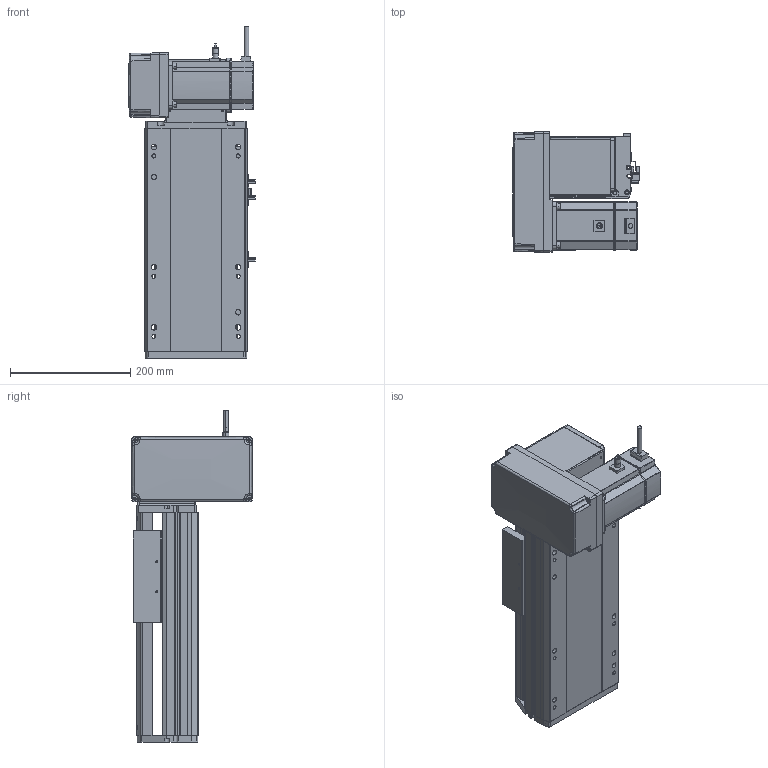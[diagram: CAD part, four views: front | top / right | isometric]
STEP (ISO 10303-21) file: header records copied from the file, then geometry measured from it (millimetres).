
FILE_DESCRIPTION (( 'STEP AP214' ), '1' );
FILE_NAME ('RTB17S-XX-100-LM-M75-C4.STEP', '2025-12-12T00:33:01', ( '' ), ( '' ), 'SwSTEP 2.0', 'SolidWorks 2018', '' );
FILE_SCHEMA (( 'AUTOMOTIVE_DESIGN' ));
Length unit declared in the file: millimetre
Products named in the file (15): RTH13-BL-012覜茼え俋离^RTB17S-賑釱_RTB17S-XX-XX-LM-M75-C4; RTB17S-賑釱^RTB17S-XX-XX-LM-M75-C4; EE672^RTB17S-XX-XX-LM-M75-C4; RTB22S-GY-017P^RTB17S-LM-々湍釱蚾饜-750W_RTB17S-XX-XX-LM-M75-C4; RTB17S-XX-100-LM-M75-C4; RTB17S-L-014-T20-P75--々湍釱^RTB17S-LM-々湍釱蚾饜-750W_RTB17S-XX-XX-LM-M75-C4; 750W萇儂^RTB17S-XX-XX-LM-M75-C4; RTB17S-L-001-耜醱啣^RTB17S-XX-XX-LM-M75-C4; RTB17S-L-004-賑釱^RTB17S-賑釱_RTB17S-XX-XX-LM-M75-C4; RTB22S-GY-018P^RTB17S-LM-々湍釱蚾饜-750W_RTB17S-XX-XX-LM-M75-C4; RTB22S-GY-005P^RTB17S-LM-々湍釱蚾饜-750W_RTB17S-XX-XX-LM-M75-C4; RTB17S-L-007奻裔^RTB17S-XX-XX-LM-M75-C4; RTB17-R-011菁釱^RTB17S-XX-XX-LM-M75-C4; RTB17S-LM-々湍釱蚾饜-750W^RTB17S-XX-XX-LM-M75-C4; RTB22S-GY-008-M75--萇儂啣^RTB17S-LM-々湍釱蚾饜-750W_RTB17S-XX-XX-LM-M75-C4
Assembly tree (17 placements, depth 3):
  RTB17S-XX-100-LM-M75-C4
    RTB17-R-011菁釱^RTB17S-XX-XX-LM-M75-C4
    EE672^RTB17S-XX-XX-LM-M75-C4  x3
    RTB17S-L-001-耜醱啣^RTB17S-XX-XX-LM-M75-C4
    RTB17S-賑釱^RTB17S-XX-XX-LM-M75-C4
      RTB17S-L-004-賑釱^RTB17S-賑釱_RTB17S-XX-XX-LM-M75-C4
      RTH13-BL-012覜茼え俋离^RTB17S-賑釱_RTB17S-XX-XX-LM-M75-C4
    RTB17S-L-007奻裔^RTB17S-XX-XX-LM-M75-C4
    750W萇儂^RTB17S-XX-XX-LM-M75-C4
    RTB17S-LM-々湍釱蚾饜-750W^RTB17S-XX-XX-LM-M75-C4
      RTB17S-L-014-T20-P75--々湍釱^RTB17S-LM-々湍釱蚾饜-750W_RTB17S-XX-XX-LM-M75-C4
      RTB22S-GY-005P^RTB17S-LM-々湍釱蚾饜-750W_RTB17S-XX-XX-LM-M75-C4
      RTB22S-GY-017P^RTB17S-LM-々湍釱蚾饜-750W_RTB17S-XX-XX-LM-M75-C4  x2
      RTB22S-GY-008-M75--萇儂啣^RTB17S-LM-々湍釱蚾饜-750W_RTB17S-XX-XX-LM-M75-C4
      RTB22S-GY-018P^RTB17S-LM-々湍釱蚾饜-750W_RTB17S-XX-XX-LM-M75-C4
Bounding box: 210.4 x 200 x 552.2 mm (x, y, z)
Volume: 6572475 mm3; surface area: 966322.1 mm2
Topology: 17 solids, 17 shells, 2025 faces, 5566 edges, 3590 vertices
Faces by surface type: plane 962, cylinder 647, bspline 294, cone 110, sphere 8, torus 4
Entity records: 55030 total; most frequent: CARTESIAN_POINT 16030, ORIENTED_EDGE 7976, DIRECTION 7502, EDGE_CURVE 3988, AXIS2_PLACEMENT_3D 2610, VERTEX_POINT 2594, LINE 2282, VECTOR 2282
